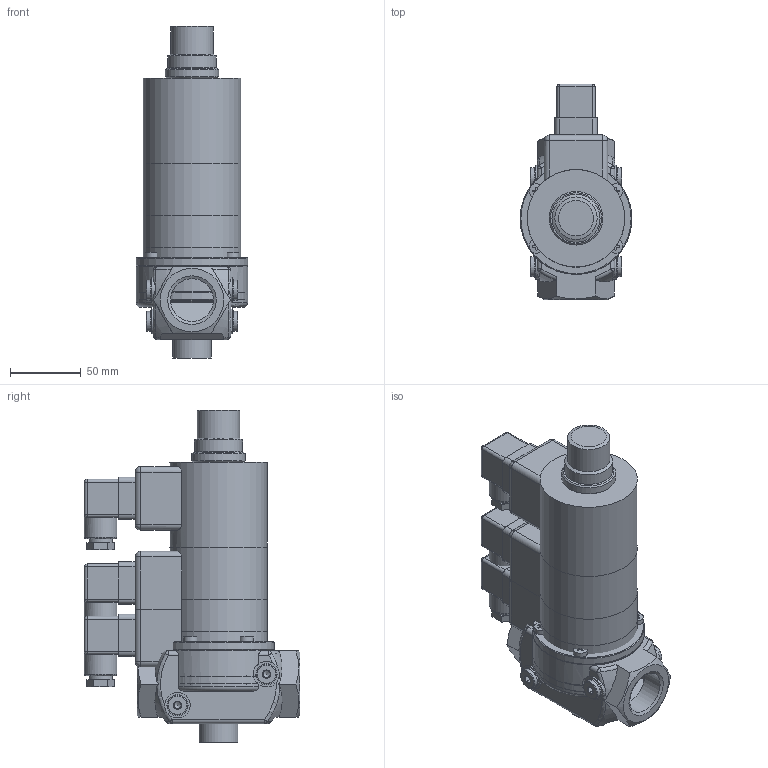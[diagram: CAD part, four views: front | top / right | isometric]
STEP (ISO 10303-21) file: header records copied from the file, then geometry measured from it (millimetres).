
FILE_DESCRIPTION( ( 'Unknown' ), '1' );
FILE_NAME( 'D:/Wyroby/Widoki gabarytowe/Zawory ZED/ZED_25/ZED_25.stp', 'Unknown', ( 'Unknown' ), ( 'Unknown' ), 'XStep 1.0', 'Unknown', ' ' );
FILE_SCHEMA( ( 'CONFIG_CONTROL_DESIGN' ) );
Length unit declared in the file: millimetre
Products named in the file (54): Wa_145_01_02; Wb_007_01_01; Assem1; Wa_145_01_01; Wa_145_01_00; Wb_007_01_02; Wb_007_01_02_001zaci從i黎y; Wb_007_01_02_003zaci從i黎a; Wb_007_01_02_002; Wb_007_01_01bez_gniazda; Wb_007_01_01_001gotowe; Wa_007_01_02_001k1; Wa_007_01_02_003k1; Wa_145_01_02_002; Wa_145_01_02_001got.; Wa_145_01_01_001; Wa_145_01_01_002; Wa_007_01_00_005彡i從.; Wb_007_01_00_001; W-036M5x14krzy¿.; Wa_031_01_00_011; Wa_031_01_00_009; Wb_007_01_00_004彡i從i黎a19,5; Wb_007_01_04; Oring54x3彡i從.; Wa_007_01_00_002; Wa_145_01_00_008; Wa_145_01_00_001; Wb_144_01_00_003; Wa_145_01_00_006; Wa_145_01_00_003; Wb_144_01_00_004; Wa_145_01_00_009; Oring6x2彡i從.; Oring20x2彡i從.; Wa_145_01_00_002; Wa_145_01_00_005; Cewka_25
Bounding box: 79 x 152.5 x 235 mm (x, y, z)
Volume: 2170671.6 mm3; surface area: 687911.1 mm2
Topology: 153 solids, 153 shells, 2782 faces, 6226 edges, 3895 vertices
Faces by surface type: plane 1253, cylinder 828, cone 471, torus 115, sphere 112, bspline 3
Full cylindrical faces by diameter (mm): 2 x7, 4 x10, 4.134 x24, 4.2 x3, 5 x19, 5.2 x12, 6 x8, 6.2 x12, 6.5 x15, 6.917 x6, 7 x4, 8 x14, 8.566 x16, 9.7 x15, 10 x23, 10.5 x24, 12 x4, 12.8 x4, 13 x4, 14 x12, 15 x16, 17 x8, 18 x13, 20 x7, 20.9 x6, 20.917 x6, 22 x10, 22.7 x32, 22.8 x3, 22.917 x4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
Entity records: 25673 total; most frequent: CARTESIAN_POINT 5559, DIRECTION 3968, ORIENTED_EDGE 2956, AXIS2_PLACEMENT_3D 1706, EDGE_CURVE 1478, EDGE_LOOP 1321, VERTEX_POINT 1103, FACE_OUTER_BOUND 1052
